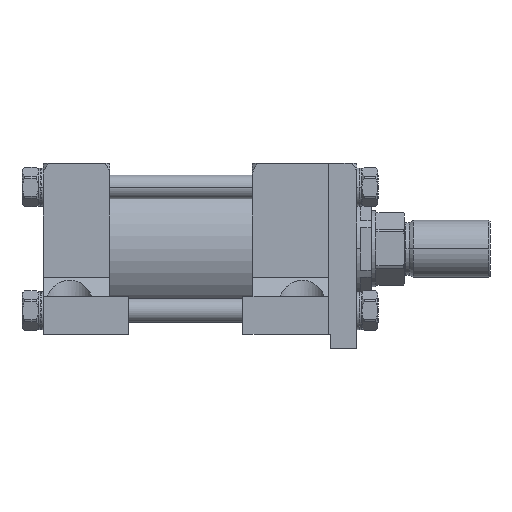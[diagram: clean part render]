
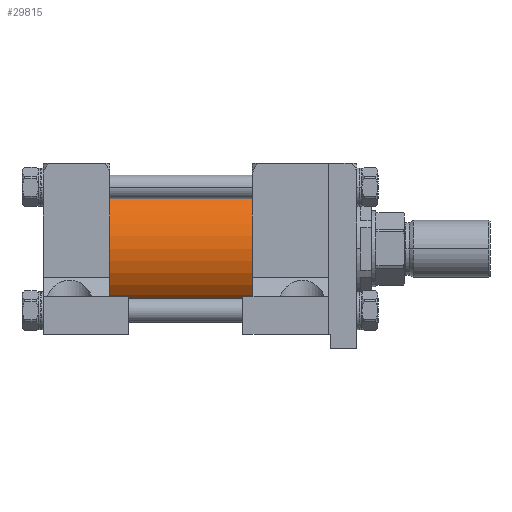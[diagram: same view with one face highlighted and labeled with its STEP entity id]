
A CAD part, front view. The second image highlights one B-rep face of the part: STEP entity #29815.
In plain terms, the highlighted cylindrical face has radius 47.625 mm (diameter 95.25 mm), a partial arc.
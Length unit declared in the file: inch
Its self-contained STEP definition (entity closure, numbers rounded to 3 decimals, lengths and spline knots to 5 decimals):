
#2905 = CARTESIAN_POINT ( 'NONE',  ( -3.75, 0., 1.875 ) ) ;
#3571 = CARTESIAN_POINT ( 'NONE',  ( -3.75, 0., -1.875 ) ) ;
#3879 = VECTOR ( 'NONE', #42879, 39.37008 ) ;
#5030 = CYLINDRICAL_SURFACE ( 'NONE', #31966, 1.875 ) ;
#6073 = CARTESIAN_POINT ( 'NONE',  ( -8., 0., 1.875 ) ) ;
#9126 = AXIS2_PLACEMENT_3D ( 'NONE', #56244, #36754, #56899 ) ;
#11234 = DIRECTION ( 'NONE',  ( 0., 1., 0. ) ) ;
#13168 = VERTEX_POINT ( 'NONE', #2905 ) ;
#14676 = CARTESIAN_POINT ( 'NONE',  ( -8., 0., 0. ) ) ;
#16301 = EDGE_CURVE ( 'NONE', #27230, #13168, #60213, .T. ) ;
#16731 = CARTESIAN_POINT ( 'NONE',  ( -3.75, 0., 0. ) ) ;
#17698 = ORIENTED_EDGE ( 'NONE', *, *, #21937, .T. ) ;
#20004 = DIRECTION ( 'NONE',  ( 1., 0., 0. ) ) ;
#21937 = EDGE_CURVE ( 'NONE', #29752, #42331, #24395, .T. ) ;
#23886 = CIRCLE ( 'NONE', #49767, 1.875 ) ;
#24395 = LINE ( 'NONE', #62710, #3879 ) ;
#24836 = VECTOR ( 'NONE', #20004, 39.37008 ) ;
#26990 = EDGE_CURVE ( 'NONE', #13168, #42331, #23886, .T. ) ;
#27230 = VERTEX_POINT ( 'NONE', #29001 ) ;
#29001 = CARTESIAN_POINT ( 'NONE',  ( -8., 0., 1.875 ) ) ;
#29752 = VERTEX_POINT ( 'NONE', #36210 ) ;
#29815 = ADVANCED_FACE ( 'NONE', ( #61830 ), #5030, .T. ) ;
#31260 = ORIENTED_EDGE ( 'NONE', *, *, #26990, .F. ) ;
#31966 = AXIS2_PLACEMENT_3D ( 'NONE', #14676, #63133, #37474 ) ;
#32077 = EDGE_CURVE ( 'NONE', #27230, #29752, #64011, .T. ) ;
#36210 = CARTESIAN_POINT ( 'NONE',  ( -8., 0., -1.875 ) ) ;
#36504 = DIRECTION ( 'NONE',  ( 1., 0., 0. ) ) ;
#36754 = DIRECTION ( 'NONE',  ( 1., 0., 0. ) ) ;
#37474 = DIRECTION ( 'NONE',  ( 0., 0., -1. ) ) ;
#38909 = ORIENTED_EDGE ( 'NONE', *, *, #32077, .T. ) ;
#42331 = VERTEX_POINT ( 'NONE', #3571 ) ;
#42879 = DIRECTION ( 'NONE',  ( 1., 0., 0. ) ) ;
#49767 = AXIS2_PLACEMENT_3D ( 'NONE', #16731, #36504, #11234 ) ;
#49793 = EDGE_LOOP ( 'NONE', ( #55737, #38909, #17698, #31260 ) ) ;
#55737 = ORIENTED_EDGE ( 'NONE', *, *, #16301, .F. ) ;
#56244 = CARTESIAN_POINT ( 'NONE',  ( -8., 0., 0. ) ) ;
#56899 = DIRECTION ( 'NONE',  ( 0., 1., 0. ) ) ;
#60213 = LINE ( 'NONE', #6073, #24836 ) ;
#61830 = FACE_OUTER_BOUND ( 'NONE', #49793, .T. ) ;
#62710 = CARTESIAN_POINT ( 'NONE',  ( -8., 0., -1.875 ) ) ;
#63133 = DIRECTION ( 'NONE',  ( 1., 0., 0. ) ) ;
#64011 = CIRCLE ( 'NONE', #9126, 1.875 ) ;
